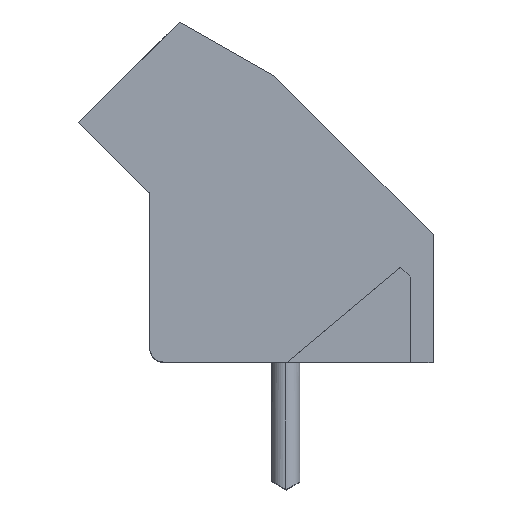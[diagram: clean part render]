
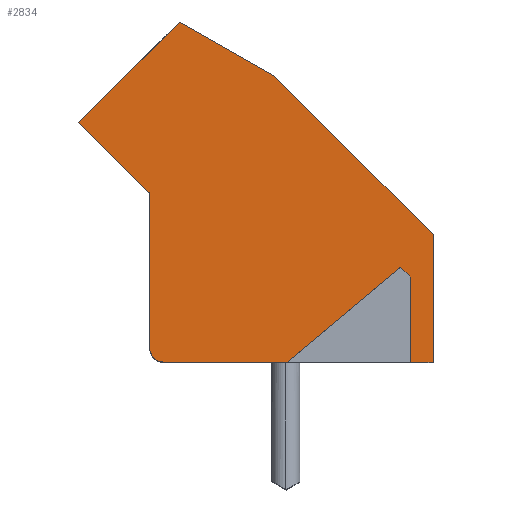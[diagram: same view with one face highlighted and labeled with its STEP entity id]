
A CAD part, top view. The second image highlights one B-rep face of the part: STEP entity #2834.
In plain terms, the highlighted planar face has unit normal (0, 0, 1).
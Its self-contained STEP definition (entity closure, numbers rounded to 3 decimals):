
#1675 = VERTEX_POINT ( 'NONE', #5834 ) ;
#1677 = EDGE_CURVE ( 'NONE', #1675, #1678, #5833, .T. ) ;
#1678 = VERTEX_POINT ( 'NONE', #5828 ) ;
#2079 = EDGE_CURVE ( 'NONE', #2080, #2081, #6818, .T. ) ;
#2080 = VERTEX_POINT ( 'NONE', #6814 ) ;
#2081 = VERTEX_POINT ( 'NONE', #6813 ) ;
#2092 = EDGE_CURVE ( 'NONE', #2093, #1675, #6797, .T. ) ;
#2093 = VERTEX_POINT ( 'NONE', #6844 ) ;
#2143 = EDGE_CURVE ( 'NONE', #1678, #2144, #6886, .T. ) ;
#2144 = VERTEX_POINT ( 'NONE', #6882 ) ;
#2173 = EDGE_CURVE ( 'NONE', #2174, #2187, #6958, .T. ) ;
#2174 = VERTEX_POINT ( 'NONE', #6954 ) ;
#2186 = EDGE_CURVE ( 'NONE', #2187, #2188, #6943, .T. ) ;
#2187 = VERTEX_POINT ( 'NONE', #6939 ) ;
#2188 = VERTEX_POINT ( 'NONE', #6938 ) ;
#2189 = EDGE_CURVE ( 'NONE', #2144, #2190, #7003, .T. ) ;
#2190 = VERTEX_POINT ( 'NONE', #6999 ) ;
#2200 = EDGE_CURVE ( 'NONE', #2190, #2080, #6983, .T. ) ;
#2235 = EDGE_CURVE ( 'NONE', #2236, #2174, #7048, .T. ) ;
#2236 = VERTEX_POINT ( 'NONE', #7044 ) ;
#2807 = ORIENTED_EDGE ( 'NONE', *, *, #2186, .F. ) ;
#2808 = ORIENTED_EDGE ( 'NONE', *, *, #2173, .F. ) ;
#2809 = ORIENTED_EDGE ( 'NONE', *, *, #2235, .F. ) ;
#2811 = ORIENTED_EDGE ( 'NONE', *, *, #2813, .F. ) ;
#2813 = EDGE_CURVE ( 'NONE', #2815, #2236, #7654, .T. ) ;
#2815 = VERTEX_POINT ( 'NONE', #7650 ) ;
#2817 = ORIENTED_EDGE ( 'NONE', *, *, #2819, .T. ) ;
#2819 = EDGE_CURVE ( 'NONE', #2815, #2081, #7649, .T. ) ;
#2820 = ORIENTED_EDGE ( 'NONE', *, *, #2079, .F. ) ;
#2821 = ORIENTED_EDGE ( 'NONE', *, *, #2200, .F. ) ;
#2834 = ADVANCED_FACE ( 'NONE', ( #7700 ), #7699, .F. ) ;
#2835 = EDGE_LOOP ( 'NONE', ( #2836, #2837, #2838, #2840, #2841, #2842, #2807, #2808, #2809, #2811, #2817, #2820, #2821 ) ) ;
#2836 = ORIENTED_EDGE ( 'NONE', *, *, #2189, .F. ) ;
#2837 = ORIENTED_EDGE ( 'NONE', *, *, #2143, .F. ) ;
#2838 = ORIENTED_EDGE ( 'NONE', *, *, #1677, .F. ) ;
#2840 = ORIENTED_EDGE ( 'NONE', *, *, #2092, .F. ) ;
#2841 = ORIENTED_EDGE ( 'NONE', *, *, #2862, .F. ) ;
#2842 = ORIENTED_EDGE ( 'NONE', *, *, #2843, .T. ) ;
#2843 = EDGE_CURVE ( 'NONE', #8587, #2188, #7694, .T. ) ;
#2862 = EDGE_CURVE ( 'NONE', #8587, #2093, #7674, .T. ) ;
#5828 = CARTESIAN_POINT ( 'NONE',  ( -0.029, 5.978, -5. ) ) ;
#5829 = DIRECTION ( 'NONE',  ( 1., 0., 0. ) ) ;
#5830 = DIRECTION ( 'NONE',  ( 0., 0., 1. ) ) ;
#5831 = CARTESIAN_POINT ( 'NONE',  ( -0.1, 5.907, -5. ) ) ;
#5832 = AXIS2_PLACEMENT_3D ( 'NONE', #5831, #5830, #5829 ) ;
#5833 = CIRCLE ( 'NONE', #5832, 0.1 ) ;
#5834 = CARTESIAN_POINT ( 'NONE',  ( 0., 5.907, -5. ) ) ;
#6797 = LINE ( 'NONE', #6847, #6846 ) ;
#6813 = CARTESIAN_POINT ( 'NONE',  ( 10., 4.484, -5. ) ) ;
#6814 = CARTESIAN_POINT ( 'NONE',  ( 4.411, 10.073, -5. ) ) ;
#6815 = DIRECTION ( 'NONE',  ( 0.707, -0.707, 0. ) ) ;
#6816 = VECTOR ( 'NONE', #6815, 1000. ) ;
#6817 = CARTESIAN_POINT ( 'NONE',  ( 4.411, 10.073, -5. ) ) ;
#6818 = LINE ( 'NONE', #6817, #6816 ) ;
#6844 = CARTESIAN_POINT ( 'NONE',  ( 0., 0.484, -5. ) ) ;
#6845 = DIRECTION ( 'NONE',  ( 0., 1., 0. ) ) ;
#6846 = VECTOR ( 'NONE', #6845, 1000. ) ;
#6847 = CARTESIAN_POINT ( 'NONE',  ( 0., 6.02, -5. ) ) ;
#6882 = CARTESIAN_POINT ( 'NONE',  ( -2.5, 8.448, -5. ) ) ;
#6883 = DIRECTION ( 'NONE',  ( -0.707, 0.707, 0. ) ) ;
#6884 = VECTOR ( 'NONE', #6883, 1000. ) ;
#6885 = CARTESIAN_POINT ( 'NONE',  ( -0.029, 5.978, -5. ) ) ;
#6886 = LINE ( 'NONE', #6885, #6884 ) ;
#6938 = CARTESIAN_POINT ( 'NONE',  ( 4.858, -0.016, -5. ) ) ;
#6939 = CARTESIAN_POINT ( 'NONE',  ( 8.85, 3.334, -5. ) ) ;
#6940 = DIRECTION ( 'NONE',  ( -0.766, -0.643, 0. ) ) ;
#6941 = VECTOR ( 'NONE', #6940, 1000. ) ;
#6942 = CARTESIAN_POINT ( 'NONE',  ( 8.85, 3.334, -5. ) ) ;
#6943 = LINE ( 'NONE', #6942, #6941 ) ;
#6954 = CARTESIAN_POINT ( 'NONE',  ( 9.2, 2.984, -5. ) ) ;
#6955 = DIRECTION ( 'NONE',  ( -0.707, 0.707, 0. ) ) ;
#6956 = VECTOR ( 'NONE', #6955, 1000. ) ;
#6957 = CARTESIAN_POINT ( 'NONE',  ( 9.2, 2.984, -5. ) ) ;
#6958 = LINE ( 'NONE', #6957, #6956 ) ;
#6980 = DIRECTION ( 'NONE',  ( 0.87, -0.493, 0. ) ) ;
#6981 = VECTOR ( 'NONE', #6980, 1000. ) ;
#6982 = CARTESIAN_POINT ( 'NONE',  ( 1.036, 11.984, -5. ) ) ;
#6983 = LINE ( 'NONE', #6982, #6981 ) ;
#6999 = CARTESIAN_POINT ( 'NONE',  ( 1.036, 11.984, -5. ) ) ;
#7000 = DIRECTION ( 'NONE',  ( 0.707, 0.707, 0. ) ) ;
#7001 = VECTOR ( 'NONE', #7000, 1000. ) ;
#7002 = CARTESIAN_POINT ( 'NONE',  ( -2.5, 8.448, -5. ) ) ;
#7003 = LINE ( 'NONE', #7002, #7001 ) ;
#7044 = CARTESIAN_POINT ( 'NONE',  ( 9.2, -0.016, -5. ) ) ;
#7045 = DIRECTION ( 'NONE',  ( 0., 1., 0. ) ) ;
#7046 = VECTOR ( 'NONE', #7045, 1000. ) ;
#7047 = CARTESIAN_POINT ( 'NONE',  ( 9.2, 6.02, -5. ) ) ;
#7048 = LINE ( 'NONE', #7047, #7046 ) ;
#7646 = DIRECTION ( 'NONE',  ( 0., 1., 0. ) ) ;
#7647 = VECTOR ( 'NONE', #7646, 1000. ) ;
#7648 = CARTESIAN_POINT ( 'NONE',  ( 10., 2.234, -5. ) ) ;
#7649 = LINE ( 'NONE', #7648, #7647 ) ;
#7650 = CARTESIAN_POINT ( 'NONE',  ( 10., -0.016, -5. ) ) ;
#7651 = DIRECTION ( 'NONE',  ( -1., 0., 0. ) ) ;
#7652 = VECTOR ( 'NONE', #7651, 1000. ) ;
#7653 = CARTESIAN_POINT ( 'NONE',  ( 3.712, -0.016, -5. ) ) ;
#7654 = LINE ( 'NONE', #7653, #7652 ) ;
#7672 = CARTESIAN_POINT ( 'NONE',  ( 0.5, 0.484, -5. ) ) ;
#7673 = AXIS2_PLACEMENT_3D ( 'NONE', #7672, #7737, #7736 ) ;
#7674 = CIRCLE ( 'NONE', #7673, 0.5 ) ;
#7691 = DIRECTION ( 'NONE',  ( 1., 0., 0. ) ) ;
#7692 = VECTOR ( 'NONE', #7691, 1000. ) ;
#7693 = CARTESIAN_POINT ( 'NONE',  ( 5.25, -0.016, -5. ) ) ;
#7694 = LINE ( 'NONE', #7693, #7692 ) ;
#7695 = DIRECTION ( 'NONE',  ( -1., 0., 0. ) ) ;
#7696 = DIRECTION ( 'NONE',  ( 0., 0., -1. ) ) ;
#7697 = CARTESIAN_POINT ( 'NONE',  ( 10., -0.016, -5. ) ) ;
#7698 = AXIS2_PLACEMENT_3D ( 'NONE', #7697, #7696, #7695 ) ;
#7699 = PLANE ( 'NONE',  #7698 ) ;
#7700 = FACE_OUTER_BOUND ( 'NONE', #2835, .T. ) ;
#7736 = DIRECTION ( 'NONE',  ( -1., 0., 0. ) ) ;
#7737 = DIRECTION ( 'NONE',  ( 0., 0., -1. ) ) ;
#8372 = CARTESIAN_POINT ( 'NONE',  ( 0.5, -0.016, -5. ) ) ;
#8587 = VERTEX_POINT ( 'NONE', #8372 ) ;
